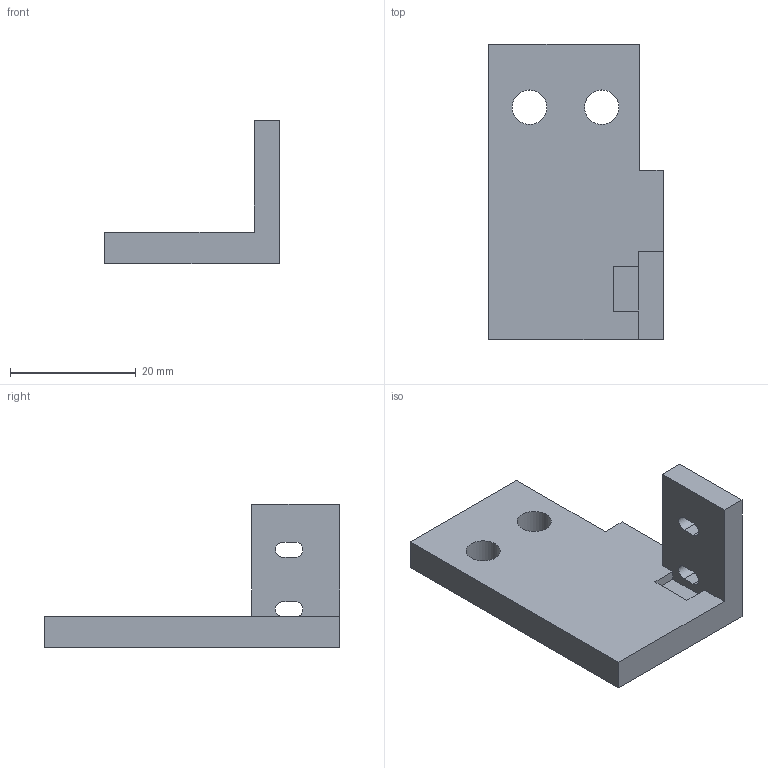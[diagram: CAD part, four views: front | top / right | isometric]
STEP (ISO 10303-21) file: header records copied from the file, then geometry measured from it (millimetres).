
FILE_DESCRIPTION(('Open CASCADE Model'),'2;1');
FILE_NAME('Open CASCADE Shape Model','2026-10-23T08:22:13',('Author'),( 'Open CASCADE'),'Open CASCADE STEP processor 7.9','Open CASCADE 7.9' ,'Unknown');
FILE_SCHEMA(('AUTOMOTIVE_DESIGN { 1 0 10303 214 1 1 1 1 }'));
Length unit declared in the file: millimetre
Products named in the file (1): Open CASCADE STEP translator 7.9 22
Bounding box: 27.8 x 47 x 22.8 mm (x, y, z)
Volume: 6794.4 mm3; surface area: 4016.4 mm2
Topology: 1 solids, 1 shells, 25 faces, 69 edges, 46 vertices
Faces by surface type: plane 19, cylinder 6
Full cylindrical faces by diameter (mm): 5.5 x2
Entity records: 1718 total; most frequent: CARTESIAN_POINT 279, DIRECTION 271, LINE 183, VECTOR 183, ORIENTED_EDGE 138, PCURVE 138, DEFINITIONAL_REPRESENTATION 138, EDGE_CURVE 69
